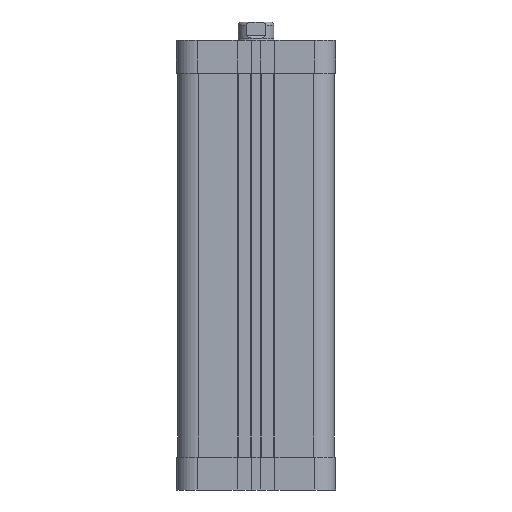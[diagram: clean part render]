
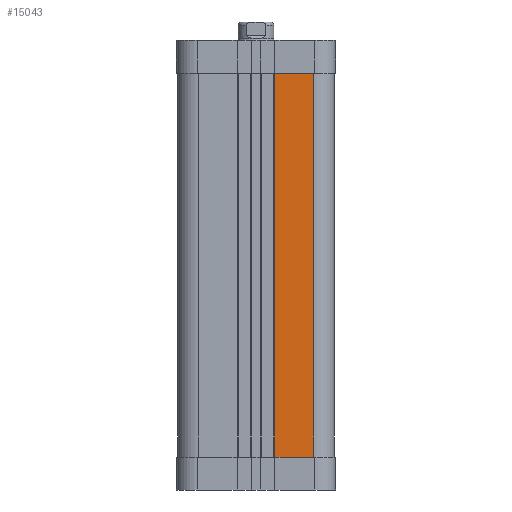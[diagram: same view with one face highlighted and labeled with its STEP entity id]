
A CAD part, left-side view. The second image highlights one B-rep face of the part: STEP entity #15043.
In plain terms, the highlighted planar face has unit normal (-1, 0, 0).
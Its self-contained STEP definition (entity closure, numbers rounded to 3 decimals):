
#138 = CARTESIAN_POINT ( 'NONE',  ( -34., -7.925, 0. ) ) ;
#2418 = ORIENTED_EDGE ( 'NONE', *, *, #36044, .F. ) ;
#3028 = DIRECTION ( 'NONE',  ( -1., 0., 0. ) ) ;
#3488 = CARTESIAN_POINT ( 'NONE',  ( -34., -7.925, -166.4 ) ) ;
#4034 = EDGE_CURVE ( 'NONE', #10313, #19818, #13843, .T. ) ;
#4412 = DIRECTION ( 'NONE',  ( 0., 0., 1. ) ) ;
#5628 = CARTESIAN_POINT ( 'NONE',  ( -34., -25., -166.4 ) ) ;
#5973 = VECTOR ( 'NONE', #4412, 1000. ) ;
#6022 = CARTESIAN_POINT ( 'NONE',  ( -34., -25., -166.4 ) ) ;
#6788 = VERTEX_POINT ( 'NONE', #5628 ) ;
#10313 = VERTEX_POINT ( 'NONE', #25340 ) ;
#10478 = CARTESIAN_POINT ( 'NONE',  ( -34., -7.925, -166.4 ) ) ;
#11436 = CARTESIAN_POINT ( 'NONE',  ( -34., -7.925, -166.4 ) ) ;
#13843 = LINE ( 'NONE', #138, #36172 ) ;
#14152 = VERTEX_POINT ( 'NONE', #3488 ) ;
#14288 = CARTESIAN_POINT ( 'NONE',  ( -34., -25., 0. ) ) ;
#14375 = DIRECTION ( 'NONE',  ( 0., -1., 0. ) ) ;
#15043 = ADVANCED_FACE ( 'NONE', ( #24622 ), #32636, .T. ) ;
#15433 = EDGE_CURVE ( 'NONE', #6788, #19818, #23077, .T. ) ;
#16601 = AXIS2_PLACEMENT_3D ( 'NONE', #17728, #3028, #23533 ) ;
#16817 = LINE ( 'NONE', #11436, #28645 ) ;
#17375 = DIRECTION ( 'NONE',  ( 0., -1., 0. ) ) ;
#17728 = CARTESIAN_POINT ( 'NONE',  ( -34., -7.925, -166.4 ) ) ;
#19818 = VERTEX_POINT ( 'NONE', #14288 ) ;
#21482 = DIRECTION ( 'NONE',  ( 0., 0., 1. ) ) ;
#21620 = EDGE_LOOP ( 'NONE', ( #35911, #2418, #26951, #26305 ) ) ;
#23077 = LINE ( 'NONE', #6022, #26766 ) ;
#23533 = DIRECTION ( 'NONE',  ( 0., -1., 0. ) ) ;
#24622 = FACE_OUTER_BOUND ( 'NONE', #21620, .T. ) ;
#25340 = CARTESIAN_POINT ( 'NONE',  ( -34., -7.925, 0. ) ) ;
#26305 = ORIENTED_EDGE ( 'NONE', *, *, #15433, .T. ) ;
#26766 = VECTOR ( 'NONE', #21482, 1000. ) ;
#26951 = ORIENTED_EDGE ( 'NONE', *, *, #36743, .T. ) ;
#28295 = LINE ( 'NONE', #10478, #5973 ) ;
#28645 = VECTOR ( 'NONE', #14375, 1000. ) ;
#32636 = PLANE ( 'NONE',  #16601 ) ;
#35911 = ORIENTED_EDGE ( 'NONE', *, *, #4034, .F. ) ;
#36044 = EDGE_CURVE ( 'NONE', #14152, #10313, #28295, .T. ) ;
#36172 = VECTOR ( 'NONE', #17375, 1000. ) ;
#36743 = EDGE_CURVE ( 'NONE', #14152, #6788, #16817, .T. ) ;
